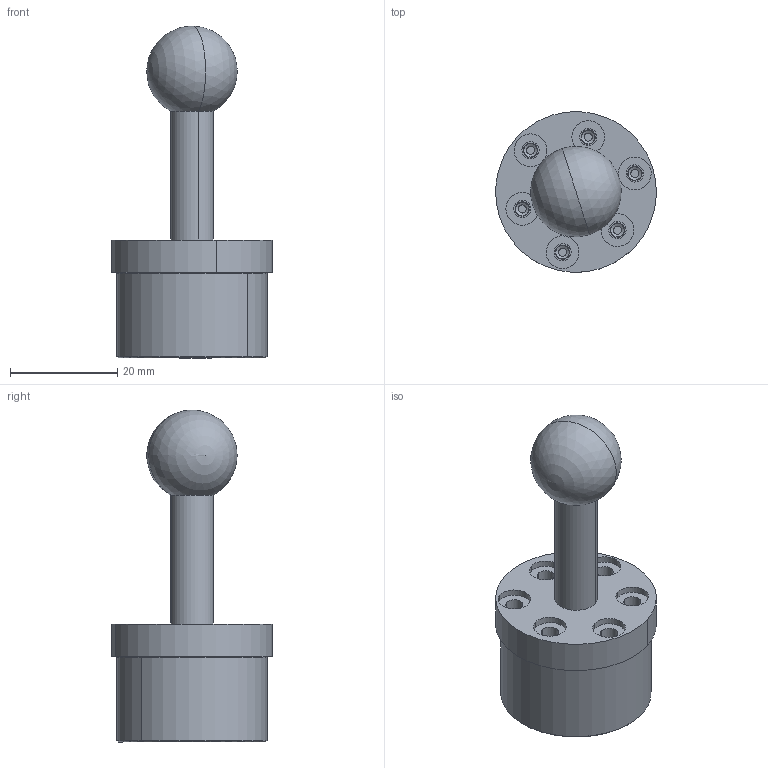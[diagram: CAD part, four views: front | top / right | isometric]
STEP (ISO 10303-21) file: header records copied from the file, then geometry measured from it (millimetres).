
FILE_DESCRIPTION(('Open CASCADE Model'),'2;1');
FILE_NAME('Open CASCADE Shape Model','2026-09-19T11:08:01',('Author'),( 'Open CASCADE'),'Open CASCADE STEP processor 7.9','Open CASCADE 7.9' ,'Unknown');
FILE_SCHEMA(('AUTOMOTIVE_DESIGN { 1 0 10303 214 1 1 1 1 }'));
Length unit declared in the file: millimetre
Products named in the file (3): Open CASCADE STEP translator 7.9 57; Open CASCADE STEP translator 7.9 57.1; Open CASCADE STEP translator 7.9 57.2
Assembly tree (2 placements, depth 2):
  Open CASCADE STEP translator 7.9 57
    Open CASCADE STEP translator 7.9 57.1
    Open CASCADE STEP translator 7.9 57.2
Bounding box: 29.97 x 29.97 x 61.9 mm (x, y, z)
Volume: 16323.6 mm3; surface area: 6975 mm2
Topology: 2 solids, 2 shells, 94 faces, 203 edges, 124 vertices
Faces by surface type: cylinder 44, cone 32, plane 16, sphere 2
Entity records: 5559 total; most frequent: CARTESIAN_POINT 1270, DIRECTION 870, ORIENTED_EDGE 402, PCURVE 402, DEFINITIONAL_REPRESENTATION 402, LINE 384, VECTOR 384, AXIS2_PLACEMENT_3D 220
